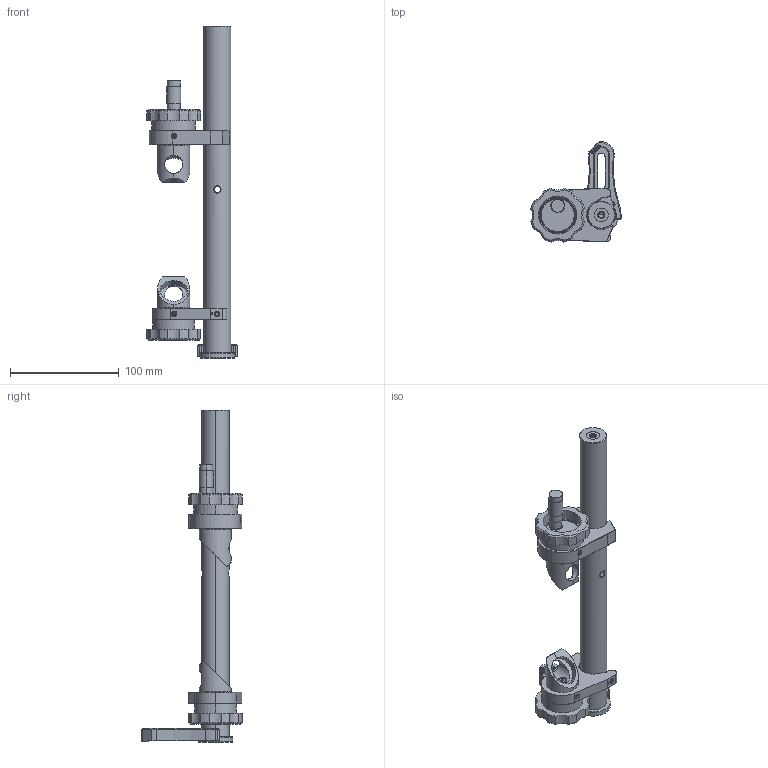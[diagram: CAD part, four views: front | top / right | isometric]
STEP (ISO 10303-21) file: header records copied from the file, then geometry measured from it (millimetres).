
FILE_DESCRIPTION((''),'2;1');
FILE_NAME('FRM1-CFJP300_ASM','2023-07-03T11:21:54',('R&D'),(''),'CREO PARAMETRIC BY PTC INC, 2021063','CREO PARAMETRIC BY PTC INC, 2021063','');
FILE_SCHEMA(('CONFIG_CONTROL_DESIGN'));
Products named in the file (34): FRM1-X2-5; FRM1-X3-5; FRM1-X5; FRM1-X2-7; FRM1-X2-8; FRM1-X4; FRM1-X2-10; FRM1-X2; FRM1-X2-15; FRM1-X3; FRM1-X2-45; FRM1-X2-25; FRM1-X2-11; FRM1-X2-14; ISO7380-1-M4X12-8_8; FRM1-X2-17; FRM1-X2-16_ASM; FRM1-X1_ASM; FRM1-A-21; FRM1-A-22; FRM1-A-23; FRM1-A-6; FRM1-A-24; FRM1-A-25; FRM1-A-9; FRM1-A-10; FRM1-A-3; FRM1-A-26; FRM1-A-1_ASM; FRM1-A-01_ASM; CFJP300-S; PCA31-S; M-BASE-C; FRM1-CFJP300_ASM
Assembly tree (34 placements, depth 4):
  FRM1-CFJP300_ASM
    FRM1-X1_ASM
      FRM1-X2-5
      FRM1-X3-5
      FRM1-X5
      FRM1-X2-7
      FRM1-X2-8
      FRM1-X4
      FRM1-X2-10
      FRM1-X2
      FRM1-X2-15
      FRM1-X3
      FRM1-X2-45
      FRM1-X2-25
      FRM1-X2-11  x2
      FRM1-X2-14
      ISO7380-1-M4X12-8_8
      FRM1-X2-16_ASM
        FRM1-X2-17
    FRM1-A-01_ASM
      FRM1-A-1_ASM
        FRM1-A-21
        FRM1-A-22
        FRM1-A-23
        FRM1-A-6
        FRM1-A-24
        FRM1-A-25
        FRM1-A-9
        FRM1-A-10
        FRM1-A-3
        FRM1-A-26
    CFJP300-S
    PCA31-S
    M-BASE-C
Bounding box: 82.81 x 92.16 x 304.7 mm (x, y, z)
Volume: 283843.6 mm3; surface area: 86219.2 mm2
Topology: 25 solids, 38 shells, 1216 faces, 2982 edges, 1875 vertices
Faces by surface type: plane 541, cylinder 379, cone 215, bspline 67, sphere 8, torus 6
Entity records: 53995 total; most frequent: CARTESIAN_POINT 25311, ORIENTED_EDGE 5810, DIRECTION 5716, EDGE_CURVE 2932, AXIS2_PLACEMENT_3D 2037, VERTEX_POINT 1869, VECTOR 1642, LINE 1642
